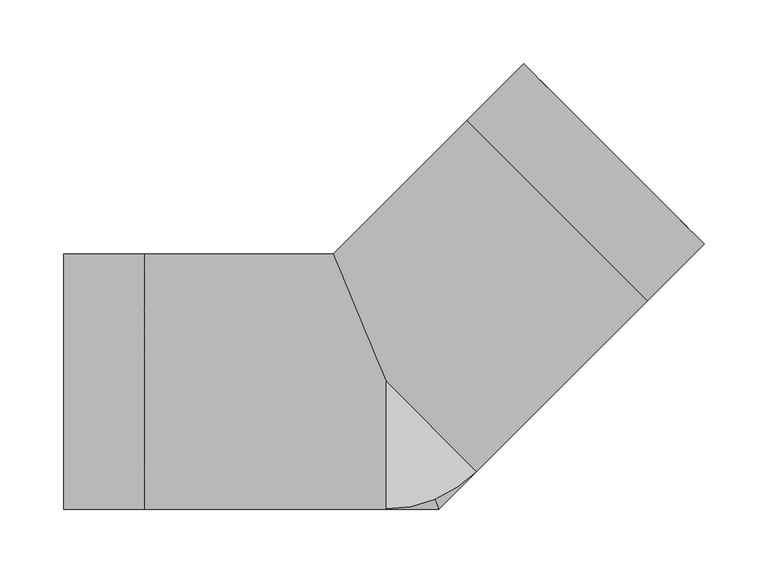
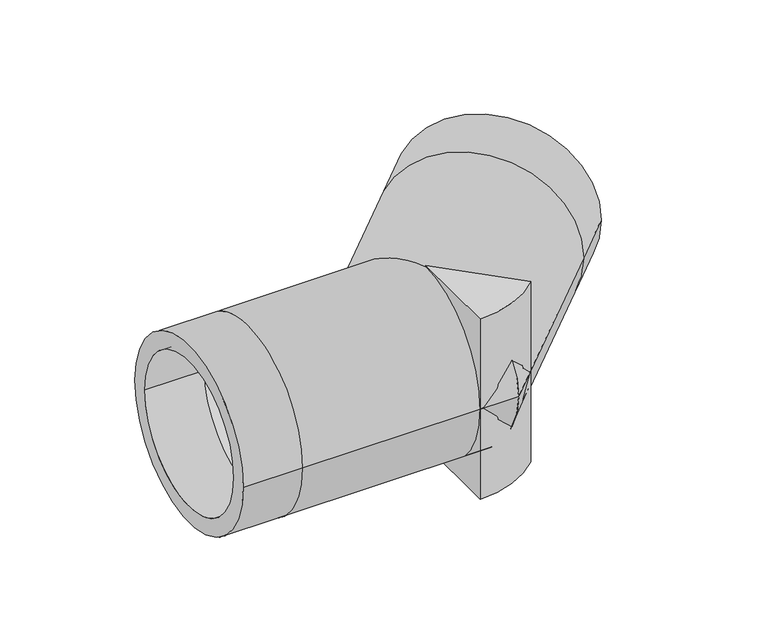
"""IFC4 building model written with IfcOpenShell, lengths in millimetres: pipe fitting geometry, Aquatherm - Elbow Green BW Segmented : SDR 11 NON-FASER."""

from ifc_helpers import new_model, si_unit, point, frame, origin, origin_with_axes, origin_2d, place, context, project, spatial, polyline, circle_curve, ellipse_curve, trimmed, segment, composite_curve, outline, extrude, source, transform, mapped, element, save
from ifc_brep_helpers import plane_surface, cylinder_surface, revolved_surface, advanced_brep


def pipe_fitting_6980bc7d(model_context):
    return source(origin(), model_context, "Body", "SolidModel", [
        extrude(outline(composite_curve([segment(polyline([(0.0, -99.949), (0.0, 0.0), (70.6746157, -70.6746157)]), True, "CONTINUOUS"), segment(trimmed(circle_curve(origin_2d(), 99.949), [point((70.6746157, -70.6746157))], [point((0.0, -99.949))], False, "CARTESIAN"), True, "CONTINUOUS")], self_intersect=False)), frame((0.0, 0.0, -101.6), z_axis=(0.0, 0.0, 1.0), x_axis=(1.0, 0.0, 0.0)), (0.0, 0.0, 1.0), 101.6),
        extrude(outline(composite_curve([segment(trimmed(circle_curve(origin_2d(), 99.949), [point((70.6746157, -70.6746157))], [point((0.0, -99.949))], False, "CARTESIAN"), True, "CONTINUOUS"), segment(polyline([(0.0, -99.949), (0.0, 0.0), (70.6746157, -70.6746157)]), True, "CONTINUOUS")], self_intersect=False)), origin_with_axes(), (0.0, 0.0, 1.0), 101.6),
        advanced_brep(
        [(-252.476, -99.949, 0.0), (-252.476, 99.949, 0.0), (-252.476, -81.7764545, 0.0), (-252.476, 81.7764545, 0.0), (249.2021074, 107.852876, 0.0), (107.852876, 249.2021074, 0.0), (236.3521772, 120.7028061, 0.0), (120.7028061, 236.3521772, 0.0), (-189.357, -99.949, 0.0), (-189.357, 99.949, 0.0), (-189.357, -81.7764545, 0.0), (-189.357, 81.7764545, 0.0), (41.4002313, -99.949, 0.0), (-41.4002313, 99.949, 0.0), (33.8729166, -81.7764545, 0.0), (-33.8729166, 81.7764545, 0.0), (204.5702344, 63.2210031, 0.0), (63.2210031, 204.5702344, 0.0), (191.7203043, 76.0709332, 0.0), (76.0709332, 191.7203043, 0.0)],
        [
            (0, 1, circle_curve(frame((-252.476, 0.0, 0.0), z_axis=(-1.0, 0.0, 0.0), x_axis=(0.0, 1.0, 0.0)), 99.949)),
            (1, 0, circle_curve(frame((-252.476, 0.0, 0.0), z_axis=(-1.0, 0.0, 0.0), x_axis=(0.0, 1.0, 0.0)), 99.949)),
            (2, 3, circle_curve(frame((-252.476, 0.0, 0.0), z_axis=(1.0, 0.0, 0.0), x_axis=(0.0, 1.0, 0.0)), 81.7764545)),
            (3, 2, circle_curve(frame((-252.476, 0.0, 0.0), z_axis=(1.0, 0.0, 0.0), x_axis=(0.0, 1.0, 0.0)), 81.7764545)),
            (4, 5, circle_curve(frame((178.5274917, 178.5274917, 0.0), z_axis=(0.7071067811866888, 0.7071067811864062, 0.0), x_axis=(-0.7071067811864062, 0.7071067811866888, 0.0)), 99.949)),
            (5, 4, circle_curve(frame((178.5274917, 178.5274917, 0.0), z_axis=(0.7071067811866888, 0.7071067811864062, 0.0), x_axis=(-0.7071067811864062, 0.7071067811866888, 0.0)), 99.949)),
            (6, 7, circle_curve(frame((178.5274917, 178.5274917, 0.0), z_axis=(-0.7071067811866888, -0.7071067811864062, 0.0), x_axis=(-0.7071067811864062, 0.7071067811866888, 0.0)), 81.7764545)),
            (7, 6, circle_curve(frame((178.5274917, 178.5274917, 0.0), z_axis=(-0.7071067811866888, -0.7071067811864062, 0.0), x_axis=(-0.7071067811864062, 0.7071067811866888, 0.0)), 81.7764545)),
            (0, 8),
            (8, 9, circle_curve(frame((-189.357, 0.0, 0.0), z_axis=(-1.0, 0.0, 0.0), x_axis=(0.0, 1.0, 0.0)), 99.949)),
            (9, 1),
            (9, 8, circle_curve(frame((-189.357, 0.0, 0.0), z_axis=(-1.0, 0.0, 0.0), x_axis=(0.0, 1.0, 0.0)), 99.949)),
            (2, 10),
            (10, 11, circle_curve(frame((-189.357, 0.0, 0.0), z_axis=(1.0, 0.0, 0.0), x_axis=(0.0, 1.0, 0.0)), 81.7764545)),
            (11, 3),
            (11, 10, circle_curve(frame((-189.357, 0.0, 0.0), z_axis=(1.0, 0.0, 0.0), x_axis=(0.0, 1.0, 0.0)), 81.7764545)),
            (8, 12),
            (12, 13, ellipse_curve(frame((0.0, 0.0, 0.0), z_axis=(-0.9238795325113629, -0.3826834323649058, 0.0), x_axis=(-0.38268343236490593, 0.9238795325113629, 0.0)), 108.184018, 99.949)),
            (13, 9),
            (13, 12, ellipse_curve(frame((0.0, 0.0, 0.0), z_axis=(-0.9238795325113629, -0.3826834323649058, 0.0), x_axis=(-0.38268343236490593, 0.9238795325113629, 0.0)), 108.184018, 99.949)),
            (10, 14),
            (14, 15, ellipse_curve(frame((0.0, 0.0, 0.0), z_axis=(0.9238795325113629, 0.3826834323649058, 0.0), x_axis=(0.38268343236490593, -0.9238795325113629, 0.0)), 88.5141966, 81.7764545)),
            (15, 11),
            (15, 14, ellipse_curve(frame((0.0, 0.0, 0.0), z_axis=(0.9238795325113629, 0.3826834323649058, 0.0), x_axis=(0.38268343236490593, -0.9238795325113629, 0.0)), 88.5141966, 81.7764545)),
            (12, 16),
            (16, 17, circle_curve(frame((133.8956188, 133.8956188, 0.0), z_axis=(-0.7071067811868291, -0.7071067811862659, 0.0), x_axis=(-0.7071067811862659, 0.7071067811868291, 0.0)), 99.949)),
            (17, 13),
            (17, 16, circle_curve(frame((133.8956188, 133.8956188, 0.0), z_axis=(-0.7071067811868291, -0.7071067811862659, 0.0), x_axis=(-0.7071067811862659, 0.7071067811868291, 0.0)), 99.949)),
            (14, 18),
            (18, 19, circle_curve(frame((133.8956188, 133.8956188, 0.0), z_axis=(0.7071067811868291, 0.7071067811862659, 0.0), x_axis=(-0.7071067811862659, 0.7071067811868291, 0.0)), 81.7764545)),
            (19, 15),
            (19, 18, circle_curve(frame((133.8956188, 133.8956188, 0.0), z_axis=(0.7071067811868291, 0.7071067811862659, 0.0), x_axis=(-0.7071067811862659, 0.7071067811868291, 0.0)), 81.7764545)),
            (16, 4),
            (5, 17),
            (18, 6),
            (7, 19),
        ],
        [
            plane_surface(frame((-252.476, 0.0, 0.0), z_axis=(-1.0, 0.0, 0.0), x_axis=(0.0, 0.0, 1.0))),
            plane_surface(frame((178.5274917, 178.5274917, 0.0), z_axis=(0.7071067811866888, 0.7071067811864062, 0.0), x_axis=(0.0, 0.0, 1.0))),
            cylinder_surface(frame((-252.476, 0.0, 0.0), z_axis=(-1.0, 0.0, 0.0), x_axis=(0.0, 1.0, 0.0)), 99.949),
            revolved_surface(polyline([(-189.357, 81.7764545, 0.0), (-252.476, 81.7764545, 0.0)]), (-252.476, 0.0, 0.0), (1.0, 0.0, 0.0)),
            cylinder_surface(frame((-189.357, 0.0, 0.0), z_axis=(-1.0, 0.0, 0.0), x_axis=(0.0, 1.0, 0.0)), 99.949),
            revolved_surface(polyline([(33.872916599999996, 81.7764545, 0.0), (-189.357, 81.7764545, 0.0)]), (-189.357, 0.0, 0.0), (1.0, 0.0, 0.0)),
            cylinder_surface(frame((0.0, 0.0, 0.0), z_axis=(-0.7071067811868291, -0.7071067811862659, 0.0), x_axis=(-0.7071067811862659, 0.7071067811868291, 0.0)), 99.949),
            revolved_surface(polyline([(76.07093328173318, 191.72030431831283, 0.0), (-81.77645452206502, 33.872916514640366, 0.0)]), (0.0, 0.0, 0.0), (0.7071067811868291, 0.7071067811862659, 0.0)),
            cylinder_surface(frame((133.8956188, 133.8956188, 0.0), z_axis=(-0.7071067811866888, -0.7071067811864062, 0.0), x_axis=(-0.7071067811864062, 0.7071067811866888, 0.0)), 99.949),
            revolved_surface(polyline([(120.70280618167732, 236.3521772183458, 0.0), (76.07093323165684, 191.72030426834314, 0.0)]), (133.8956188, 133.8956188, 0.0), (0.7071067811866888, 0.7071067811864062, 0.0)),
        ],
        [
            (0, [[1, 2], [3, 4]]),
            (1, [[5, 6], [7, 8]]),
            (2, [[-1, 9, 10, 11]]),
            (2, [[-2, -11, 12, -9]]),
            (3, [[-3, 13, 14, 15]]),
            (3, [[-4, -15, 16, -13]]),
            (4, [[-10, 17, 18, 19]]),
            (4, [[-12, -19, 20, -17]]),
            (5, [[-14, 21, 22, 23]]),
            (5, [[-16, -23, 24, -21]]),
            (6, [[-18, 25, 26, 27]]),
            (6, [[-20, -27, 28, -25]]),
            (7, [[-22, 29, 30, 31]]),
            (7, [[-24, -31, 32, -29]]),
            (8, [[-26, 33, -6, 34]]),
            (8, [[-28, -34, -5, -33]]),
            (9, [[-30, 35, -8, 36]]),
            (9, [[-32, -36, -7, -35]]),
        ],
    ),
    ])


if __name__ == "__main__":
    model = new_model("IFC4")
    model_context = context("Model", 3, world=origin())
    ifc_project = project(units=[si_unit("LENGTHUNIT", "METRE", prefix="MILLI")], contexts=[model_context])
    site = spatial("IfcSite", under=ifc_project)
    building = spatial("IfcBuilding", under=site)
    placement = place(None, origin())
    pipe_fitting_shape = pipe_fitting_6980bc7d(model_context)
    element("IfcPipeFitting", 1, ObjectType="Aquatherm - Elbow Green BW Segmented : SDR 11 NON-FASER", at=placement, inside=building, context=model_context, shape_type="MappedRepresentation", body=[
        mapped(pipe_fitting_shape, transform((0.0, 0.0, 0.0), x_axis=(1.0, 0.0, 0.0), y_axis=(0.0, 1.0, 0.0), z_axis=(0.0, 0.0, 1.0))),
    ])
    save(model, "model.ifc")
